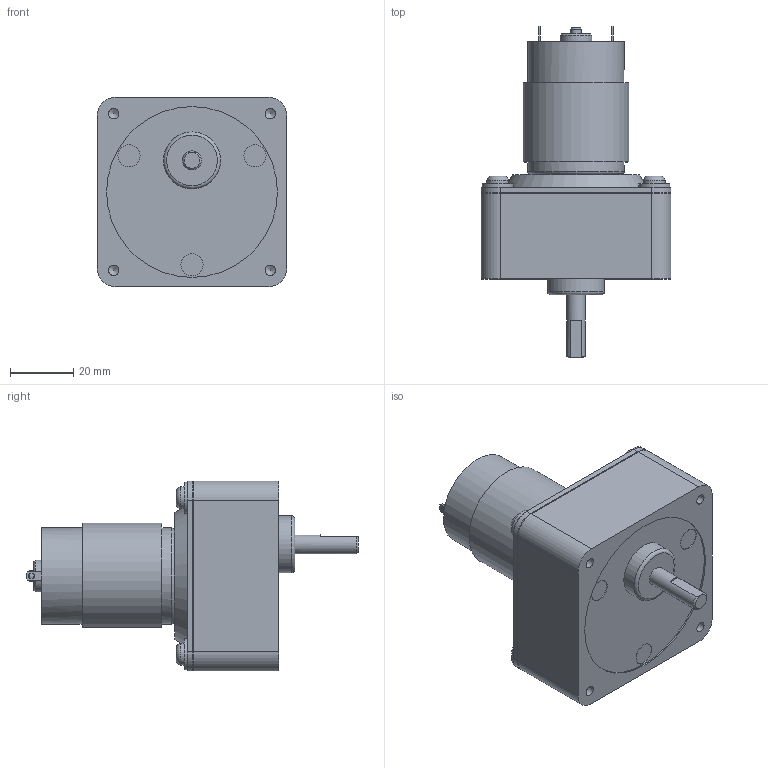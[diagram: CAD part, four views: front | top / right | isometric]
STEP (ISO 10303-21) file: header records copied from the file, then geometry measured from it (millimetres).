
FILE_DESCRIPTION(/* description */ (''),/* implementation_level */ '2;1');
FILE_NAME(/* name */ 'TP-3442#-CE.stp',/* time_stamp */ '2023-10-26T11:55:35+09:00',/* author */ ('user'),/* organization */ (''),/* preprocessor_version */ 'ST-DEVELOPER v19.2',/* originating_system */ 'Autodesk Inventor 2024',/* authorisation */ '');
FILE_SCHEMA (('AUTOMOTIVE_DESIGN { 1 0 10303 214 3 1 1 }'));
Length unit declared in the file: millimetre
Products named in the file (3): TP-3442#-CE-J00-24; ce; TP-3442#(RS-435PV)
Assembly tree (2 placements, depth 2):
  TP-3442#-CE-J00-24
    ce
    TP-3442#(RS-435PV)
Bounding box: 60 x 105 x 60 mm (x, y, z)
Volume: 144436.7 mm3; surface area: 22149.5 mm2
Topology: 2 solids, 2 shells, 183 faces, 408 edges, 266 vertices
Faces by surface type: plane 89, cylinder 69, torus 14, cone 11
Full cylindrical faces by diameter (mm): 1.5 x1, 2 x2, 2.459 x2, 2.5 x1, 2.6 x4, 3.17 x2, 3.242 x4, 6 x1, 6.8 x4, 7 x3, 8 x1, 8.3 x1, 9.8 x4, 9.9 x1, 10 x1, 18 x1, 29.4 x1, 30.4 x1, 54 x1
Entity records: 5296 total; most frequent: DIRECTION 964, CARTESIAN_POINT 860, ORIENTED_EDGE 804, EDGE_CURVE 402, AXIS2_PLACEMENT_3D 376, VERTEX_POINT 266, EDGE_LOOP 230, LINE 212
